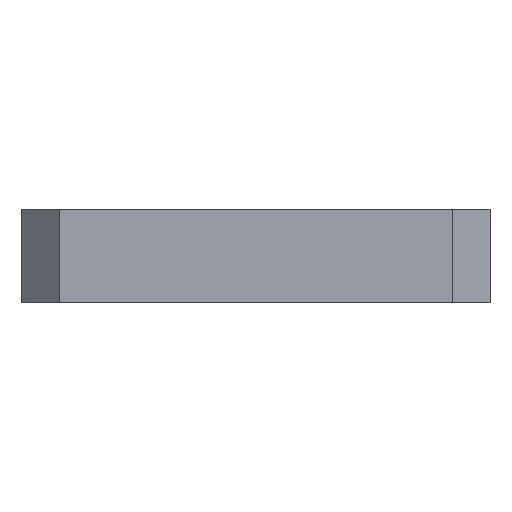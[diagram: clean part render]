
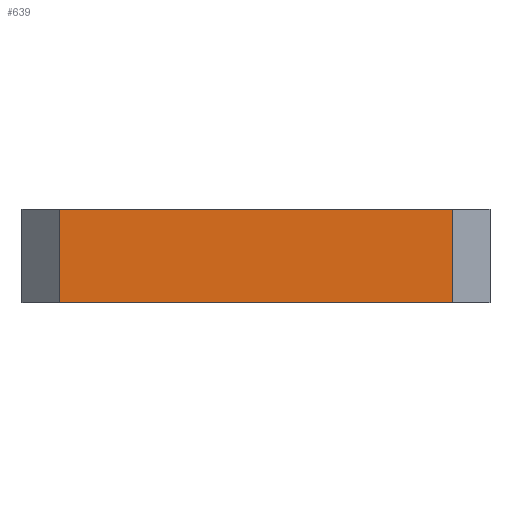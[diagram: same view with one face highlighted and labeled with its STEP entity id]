
A CAD part, left-side view. The second image highlights one B-rep face of the part: STEP entity #639.
In plain terms, the highlighted planar face has unit normal (-1, 0, 0).
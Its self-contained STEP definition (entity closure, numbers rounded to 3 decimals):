
#40 = LINE ( 'NONE', #46, #661 ) ;
#43 = VERTEX_POINT ( 'NONE', #680 ) ;
#46 = CARTESIAN_POINT ( 'NONE',  ( -60., 21., -10. ) ) ;
#74 = ORIENTED_EDGE ( 'NONE', *, *, #535, .T. ) ;
#110 = DIRECTION ( 'NONE',  ( 0., -1., 0. ) ) ;
#118 = VERTEX_POINT ( 'NONE', #501 ) ;
#127 = EDGE_CURVE ( 'NONE', #570, #43, #610, .T. ) ;
#155 = LINE ( 'NONE', #403, #713 ) ;
#212 = EDGE_LOOP ( 'NONE', ( #74, #247, #239, #602 ) ) ;
#227 = VECTOR ( 'NONE', #289, 1000. ) ;
#230 = CARTESIAN_POINT ( 'NONE',  ( -60., 25., -10. ) ) ;
#239 = ORIENTED_EDGE ( 'NONE', *, *, #127, .F. ) ;
#247 = ORIENTED_EDGE ( 'NONE', *, *, #533, .T. ) ;
#289 = DIRECTION ( 'NONE',  ( 0., 0., 1. ) ) ;
#314 = LINE ( 'NONE', #767, #227 ) ;
#354 = DIRECTION ( 'NONE',  ( -1., 0., 0. ) ) ;
#372 = CARTESIAN_POINT ( 'NONE',  ( -60., -21., -10. ) ) ;
#403 = CARTESIAN_POINT ( 'NONE',  ( -60., 25., -10. ) ) ;
#425 = VERTEX_POINT ( 'NONE', #372 ) ;
#463 = CARTESIAN_POINT ( 'NONE',  ( -60., 21., 0. ) ) ;
#496 = DIRECTION ( 'NONE',  ( 0., -1., 0. ) ) ;
#501 = CARTESIAN_POINT ( 'NONE',  ( -60., 21., -10. ) ) ;
#533 = EDGE_CURVE ( 'NONE', #425, #43, #314, .T. ) ;
#535 = EDGE_CURVE ( 'NONE', #118, #425, #155, .T. ) ;
#539 = EDGE_CURVE ( 'NONE', #570, #118, #40, .T. ) ;
#545 = VECTOR ( 'NONE', #496, 1000. ) ;
#550 = CARTESIAN_POINT ( 'NONE',  ( -60., 25., 0. ) ) ;
#552 = FACE_OUTER_BOUND ( 'NONE', #212, .T. ) ;
#563 = AXIS2_PLACEMENT_3D ( 'NONE', #230, #354, #771 ) ;
#570 = VERTEX_POINT ( 'NONE', #463 ) ;
#580 = DIRECTION ( 'NONE',  ( 0., 0., -1. ) ) ;
#602 = ORIENTED_EDGE ( 'NONE', *, *, #539, .T. ) ;
#610 = LINE ( 'NONE', #550, #545 ) ;
#639 = ADVANCED_FACE ( 'NONE', ( #552 ), #711, .T. ) ;
#661 = VECTOR ( 'NONE', #580, 1000. ) ;
#680 = CARTESIAN_POINT ( 'NONE',  ( -60., -21., 0. ) ) ;
#711 = PLANE ( 'NONE',  #563 ) ;
#713 = VECTOR ( 'NONE', #110, 1000. ) ;
#767 = CARTESIAN_POINT ( 'NONE',  ( -60., -21., -10. ) ) ;
#771 = DIRECTION ( 'NONE',  ( 0., 0., 1. ) ) ;
